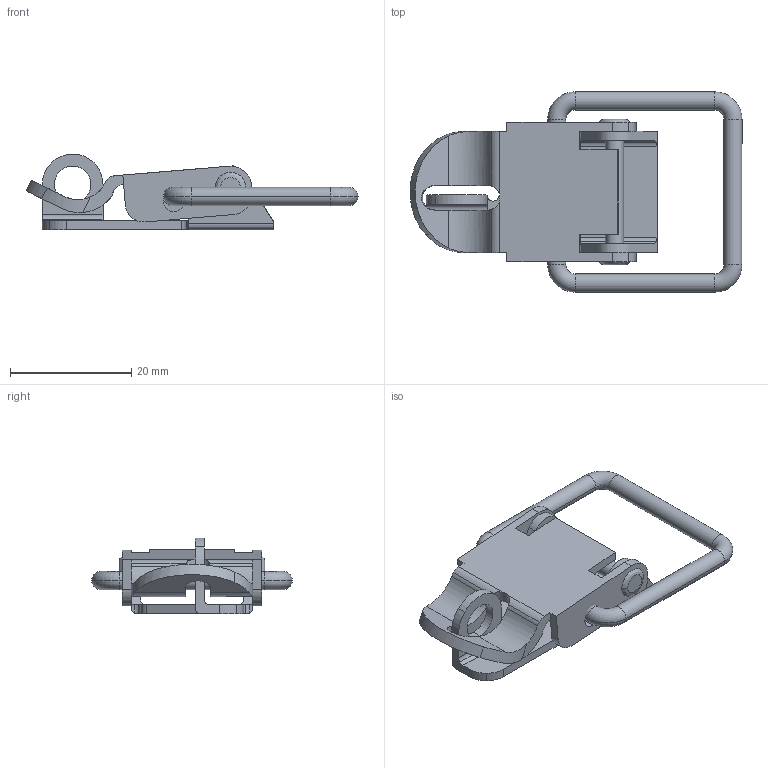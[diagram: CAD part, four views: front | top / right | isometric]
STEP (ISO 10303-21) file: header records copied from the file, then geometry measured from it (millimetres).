
FILE_DESCRIPTION((''),'2;1');
FILE_NAME('3006.stp','2011-05-12T10:33:28',(''),(''),'Mechanical Desktop 2006','Mechanical Desktop 2006',', , ');
FILE_SCHEMA(('CONFIG_CONTROL_DESIGN'));
Length unit declared in the file: millimetre
Products named in the file (5): 3006; TEIL1; STIFT L23; H.BET.3004; FANG BÜGEL 3004-06
Assembly tree (4 placements, depth 2):
  3006
    TEIL1
    STIFT L23
    H.BET.3004
    FANG BÜGEL 3004-06
Bounding box: 54.68 x 33 x 12.49 mm (x, y, z)
Volume: 3388.8 mm3; surface area: 5113.7 mm2
Topology: 4 solids, 4 shells, 157 faces, 423 edges, 275 vertices
Faces by surface type: cylinder 88, plane 55, torus 8, bspline 6
Entity records: 5574 total; most frequent: CARTESIAN_POINT 1324, DIRECTION 909, ORIENTED_EDGE 846, EDGE_CURVE 423, AXIS2_PLACEMENT_3D 350, VERTEX_POINT 275, VECTOR 209, LINE 209
